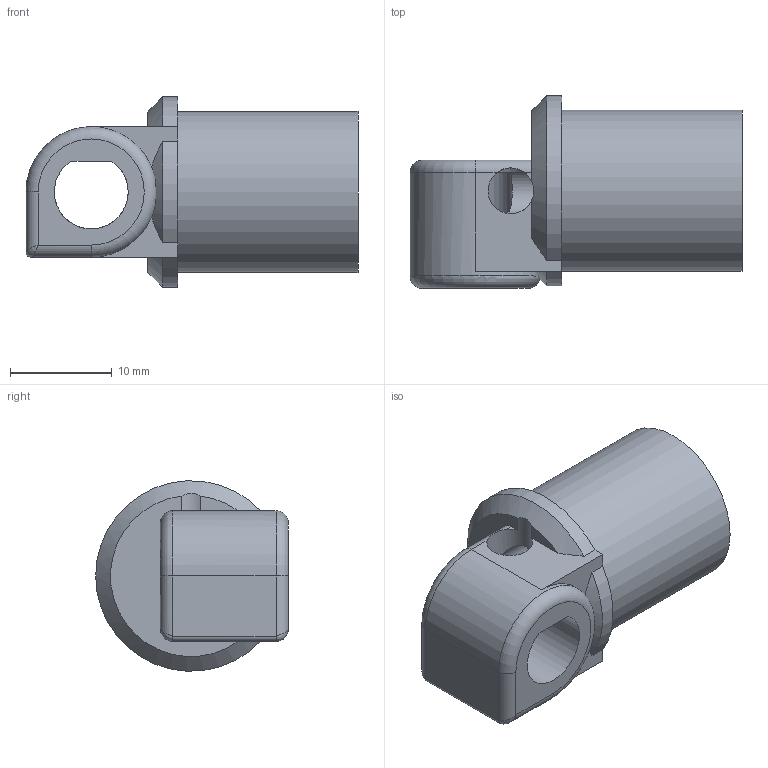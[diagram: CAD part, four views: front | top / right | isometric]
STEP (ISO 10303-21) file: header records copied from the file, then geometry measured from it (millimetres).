
FILE_DESCRIPTION(('Open CASCADE Model'),'2;1');
FILE_NAME('Open CASCADE Shape Model','2026-11-07T08:48:45',('Author'),( 'Open CASCADE'),'Open CASCADE STEP processor 8.0','build123d', 'Unknown');
FILE_SCHEMA(('AUTOMOTIVE_DESIGN { 1 0 10303 214 1 1 1 1 }'));
Length unit declared in the file: millimetre
Products named in the file (1): COMPOUND
Bounding box: 32.57 x 18.9 x 18.69 mm (x, y, z)
Volume: 3494.2 mm3; surface area: 3005.9 mm2
Topology: 1 solids, 1 shells, 45 faces, 125 edges, 78 vertices
Faces by surface type: plane 20, cylinder 19, cone 2, torus 2, bspline 2
Full cylindrical faces by diameter (mm): 4.5 x2, 10.4 x1, 15.8 x1
Entity records: 3828 total; most frequent: CARTESIAN_POINT 1591, DIRECTION 354, ORIENTED_EDGE 246, PCURVE 246, DEFINITIONAL_REPRESENTATION 246, LINE 152, VECTOR 152, B_SPLINE_CURVE_WITH_KNOTS 137
